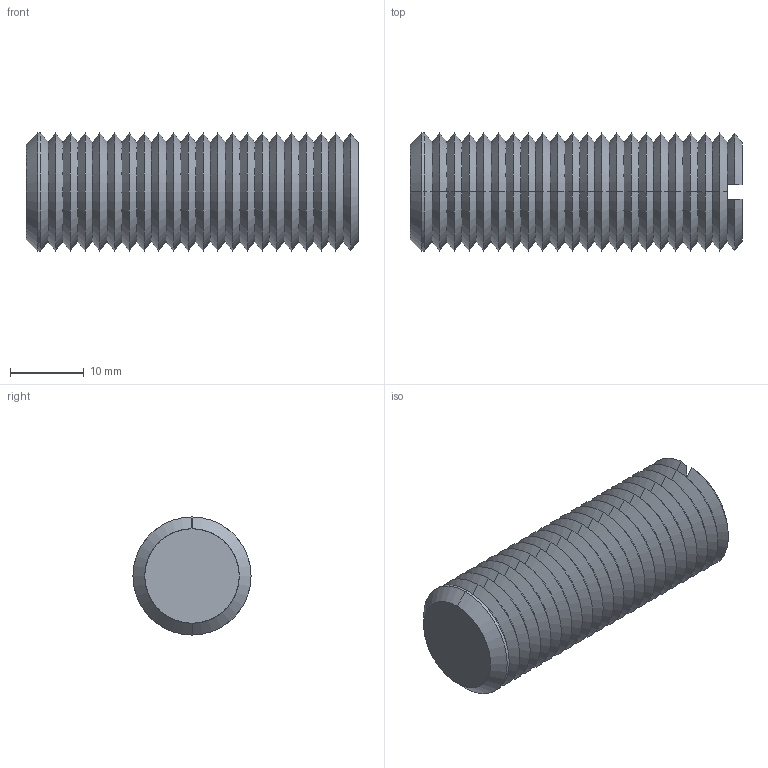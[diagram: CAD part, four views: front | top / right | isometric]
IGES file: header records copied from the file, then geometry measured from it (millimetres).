
Start section: SolidWorks IGES file using analytic representation for surfaces
Global section: file name: C:\Documents and Settings\IANO\Desktop\Temp File\Process pending\EXISTING\34300_v2\34300_v2_20170622_IGES\34300.W0163.igs; native system: SolidWorks 2009; preprocessor: SolidWorks 2009; author: IANO; date: 170622.094411; units: millimetre
Bounding box: 45 x 16 x 16 mm (x, y, z)
Surface area: 3628.3 mm2 (no closed solid volume)
Topology: 0 solids, 0 shells, 96 faces, 448 edges, 448 vertices
Faces by surface type: revolution 90, bspline 6
